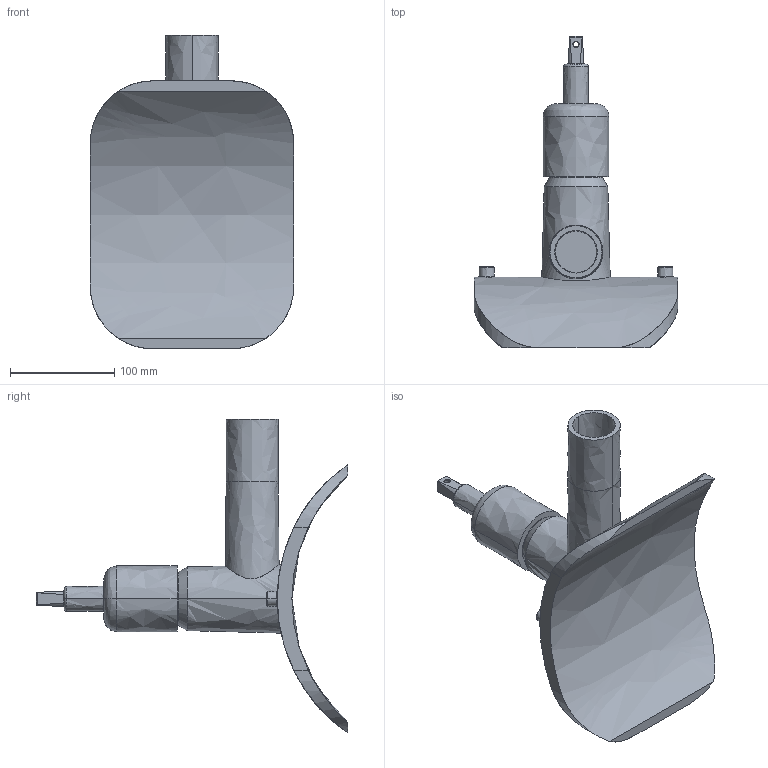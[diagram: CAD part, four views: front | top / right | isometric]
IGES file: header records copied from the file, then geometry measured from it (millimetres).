
Start section:  PTC IGES file: dav-tl_d315_dn50_01.igs
Global section: file name: dav-tl_d315_dn50_01.igs; native system: Pro/ENGINEER by Parametric Technology Corporation; preprocessor: 2011490; author: mtunjic; organization: Unknown; date: 20130909.102505; units: millimetre
Bounding box: 195 x 298.62 x 300.28 mm (x, y, z)
Surface area: 188646.8 mm2 (no closed solid volume)
Topology: 0 solids, 0 shells, 209 faces, 1030 edges, 1028 vertices
Faces by surface type: bspline 209
